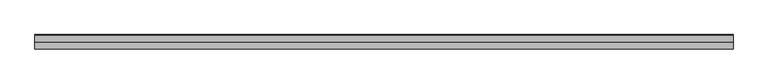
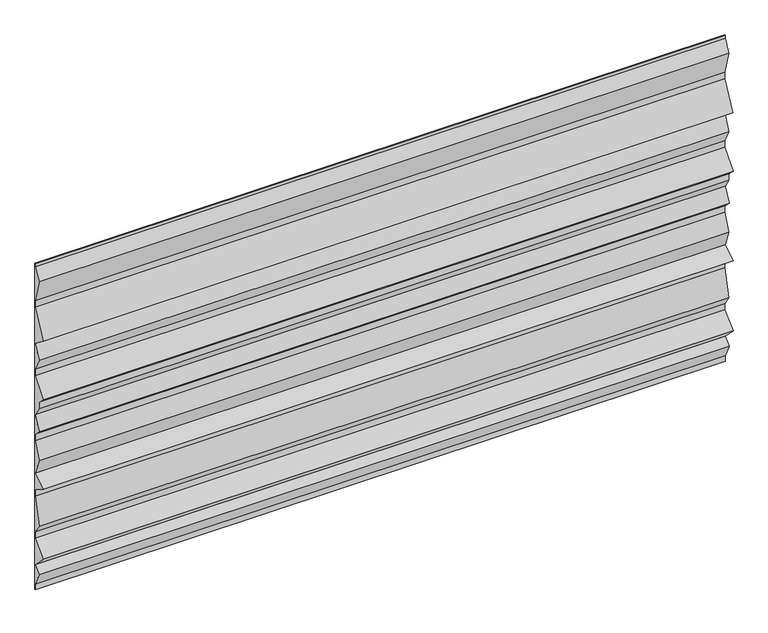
"""IFC4 building model written with IfcOpenShell, lengths in millimetres: plate geometry, ATELIERS 3S_GLACE PISSAILLAS 1000_HORIZONTAL : AZURO."""

from ifc_helpers import new_model, si_unit, frame, origin, place, context, project, spatial, polyline, outline, extrude, source, transform, mapped, element, save


def plate_c590c1ba(model_context):
    return source(origin(), model_context, "Body", "SweptSolid", [
        extrude(outline(polyline([(-0.8, 0.0), (-0.8, 16.9163895), (-20.9135393, 57.5498441), (-1.0660999, 76.9962838), (-41.0606602, 116.9908441), (-0.75, 157.3015043), (-0.75, 176.7637624), (-20.8080747, 206.8508744), (-0.75, 287.0831733), (-0.75, 306.5751584), (-41.4150972, 331.9908441), (-0.9292392, 357.2945053), (-20.8077747, 406.9908441), (-0.75, 457.1352809), (-0.75, 476.6801839), (-20.9125704, 496.8427543), (-0.8654665, 536.9369621), (-20.75, 566.7637624), (-20.75, 586.6801839), (-41.009736, 606.9399199), (-0.75, 656.2580964), (-0.75, 675.8137931), (-20.8385255, 715.9908441), (-0.9507458, 755.7664035), (-40.9507458, 785.7664035), (-0.75, 866.1678951), (-0.75, 885.8862432), (-20.8096981, 956.4025169), (-0.8, 990.1124394), (-0.8, 1000.0), (0.0, 1000.0), (0.0, 0.0), (-0.8, 0.0)])), frame((-1000.637242, 0.0, 0.0), z_axis=(1.0, 0.0, 0.0), x_axis=(0.0, 1.0, 0.0)), (0.0, 0.0, 1.0), 2001.2744839),
    ])


if __name__ == "__main__":
    model = new_model("IFC4")
    model_context = context("Model", 3, world=origin())
    ifc_project = project(units=[si_unit("LENGTHUNIT", "METRE", prefix="MILLI")], contexts=[model_context])
    site = spatial("IfcSite", under=ifc_project)
    building = spatial("IfcBuilding", under=site)
    placement = place(None, origin())
    plate_shape = plate_c590c1ba(model_context)
    element("IfcPlate", 1, ObjectType="ATELIERS 3S_GLACE PISSAILLAS 1000_HORIZONTAL : AZURO", at=placement, inside=building, context=model_context, shape_type="MappedRepresentation", body=[
        mapped(plate_shape, transform((0.0, 0.0, 0.0), x_axis=(1.0, 0.0, 0.0), y_axis=(0.0, 1.0, 0.0), z_axis=(0.0, 0.0, 1.0))),
    ])
    save(model, "model.ifc")
